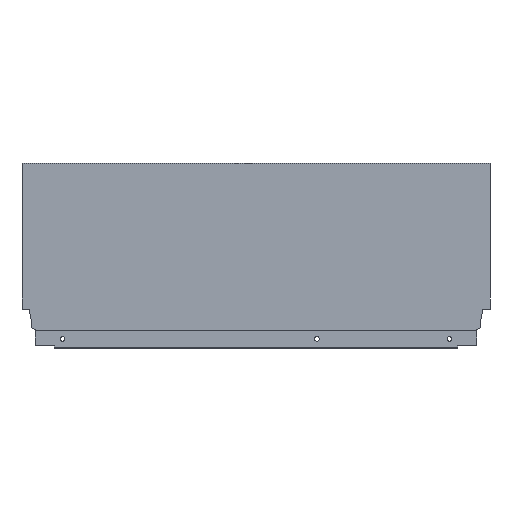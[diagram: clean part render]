
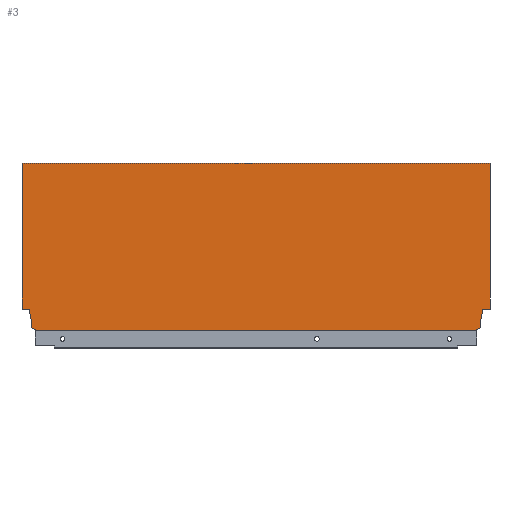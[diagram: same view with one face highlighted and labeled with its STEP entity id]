
A CAD part, top view. The second image highlights one B-rep face of the part: STEP entity #3.
In plain terms, the highlighted planar face has unit normal (0, 0, 1).
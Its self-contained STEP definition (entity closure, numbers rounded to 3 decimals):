
#3 = ADVANCED_FACE ( 'NONE', ( #1313 ), #536, .T. ) ;
#101 = EDGE_CURVE ( 'NONE', #459, #487, #1492, .T. ) ;
#128 = EDGE_CURVE ( 'NONE', #471, #482, #1511, .T. ) ;
#129 = EDGE_CURVE ( 'NONE', #482, #448, #1427, .T. ) ;
#130 = EDGE_CURVE ( 'NONE', #448, #513, #1423, .T. ) ;
#131 = EDGE_CURVE ( 'NONE', #447, #515, #1419, .T. ) ;
#132 = EDGE_CURVE ( 'NONE', #513, #514, #1421, .T. ) ;
#134 = EDGE_CURVE ( 'NONE', #514, #447, #1413, .T. ) ;
#135 = EDGE_CURVE ( 'NONE', #487, #476, #1415, .T. ) ;
#136 = EDGE_CURVE ( 'NONE', #471, #520, #1076, .T. ) ;
#138 = EDGE_CURVE ( 'NONE', #515, #505, #1426, .T. ) ;
#139 = EDGE_CURVE ( 'NONE', #502, #456, #1291, .T. ) ;
#140 = EDGE_CURVE ( 'NONE', #476, #502, #675, .T. ) ;
#141 = EDGE_CURVE ( 'NONE', #459, #505, #672, .T. ) ;
#144 = EDGE_CURVE ( 'NONE', #456, #520, #1079, .T. ) ;
#147 = AXIS2_PLACEMENT_3D ( 'NONE', #537, #441, #440 ) ;
#284 = CARTESIAN_POINT ( 'NONE',  ( -447.996, 1.146, 7.5 ) ) ;
#285 = DIRECTION ( 'NONE',  ( 0., 1., 0. ) ) ;
#306 = CARTESIAN_POINT ( 'NONE',  ( -461., 164.7, 7.5 ) ) ;
#440 = DIRECTION ( 'NONE',  ( 1., 0., 0. ) ) ;
#441 = DIRECTION ( 'NONE',  ( 0., 0., 1. ) ) ;
#447 = VERTEX_POINT ( 'NONE', #879 ) ;
#448 = VERTEX_POINT ( 'NONE', #895 ) ;
#456 = VERTEX_POINT ( 'NONE', #864 ) ;
#459 = VERTEX_POINT ( 'NONE', #690 ) ;
#471 = VERTEX_POINT ( 'NONE', #870 ) ;
#476 = VERTEX_POINT ( 'NONE', #865 ) ;
#482 = VERTEX_POINT ( 'NONE', #783 ) ;
#487 = VERTEX_POINT ( 'NONE', #756 ) ;
#502 = VERTEX_POINT ( 'NONE', #854 ) ;
#505 = VERTEX_POINT ( 'NONE', #855 ) ;
#513 = VERTEX_POINT ( 'NONE', #814 ) ;
#514 = VERTEX_POINT ( 'NONE', #815 ) ;
#515 = VERTEX_POINT ( 'NONE', #816 ) ;
#520 = VERTEX_POINT ( 'NONE', #821 ) ;
#536 = PLANE ( 'NONE',  #147 ) ;
#537 = CARTESIAN_POINT ( 'NONE',  ( -461., 0., 7.5 ) ) ;
#671 = VECTOR ( 'NONE', #971, 1000. ) ;
#672 = LINE ( 'NONE', #972, #671 ) ;
#673 = VECTOR ( 'NONE', #961, 1000. ) ;
#674 = VECTOR ( 'NONE', #908, 1000. ) ;
#675 = LINE ( 'NONE', #907, #674 ) ;
#678 = DIRECTION ( 'NONE',  ( 1., 0., 0. ) ) ;
#679 = CARTESIAN_POINT ( 'NONE',  ( -461., 0., 7.5 ) ) ;
#681 = DIRECTION ( 'NONE',  ( 0., -1., 0. ) ) ;
#683 = CARTESIAN_POINT ( 'NONE',  ( -7.06, 21.2, 7.5 ) ) ;
#685 = DIRECTION ( 'NONE',  ( -0.94, 0.342, 0. ) ) ;
#686 = DIRECTION ( 'NONE',  ( 0., -1., 0. ) ) ;
#687 = DIRECTION ( 'NONE',  ( 0., -1., 0. ) ) ;
#688 = CARTESIAN_POINT ( 'NONE',  ( -452.1, 2.64, 7.5 ) ) ;
#690 = CARTESIAN_POINT ( 'NONE',  ( -447.996, 0., 7.5 ) ) ;
#692 = CARTESIAN_POINT ( 'NONE',  ( 0., 0., 7.5 ) ) ;
#756 = CARTESIAN_POINT ( 'NONE',  ( -447.996, 1.146, 7.5 ) ) ;
#783 = CARTESIAN_POINT ( 'NONE',  ( 0., 164.7, 7.5 ) ) ;
#814 = CARTESIAN_POINT ( 'NONE',  ( -7.06, 21.2, 7.5 ) ) ;
#815 = CARTESIAN_POINT ( 'NONE',  ( -8.9, 10.765, 7.5 ) ) ;
#816 = CARTESIAN_POINT ( 'NONE',  ( -13.004, 1.146, 7.5 ) ) ;
#821 = CARTESIAN_POINT ( 'NONE',  ( -461., 21.2, 7.5 ) ) ;
#854 = CARTESIAN_POINT ( 'NONE',  ( -452.1, 10.765, 7.5 ) ) ;
#855 = CARTESIAN_POINT ( 'NONE',  ( -13.004, 0., 7.5 ) ) ;
#864 = CARTESIAN_POINT ( 'NONE',  ( -453.94, 21.2, 7.5 ) ) ;
#865 = CARTESIAN_POINT ( 'NONE',  ( -452.1, 2.64, 7.5 ) ) ;
#870 = CARTESIAN_POINT ( 'NONE',  ( -461., 164.7, 7.5 ) ) ;
#879 = CARTESIAN_POINT ( 'NONE',  ( -8.9, 2.64, 7.5 ) ) ;
#891 = DIRECTION ( 'NONE',  ( -0.94, -0.342, 0. ) ) ;
#892 = CARTESIAN_POINT ( 'NONE',  ( -8.9, 2.64, 7.5 ) ) ;
#895 = CARTESIAN_POINT ( 'NONE',  ( 0., 21.2, 7.5 ) ) ;
#902 = DIRECTION ( 'NONE',  ( -1., 0., 0. ) ) ;
#903 = CARTESIAN_POINT ( 'NONE',  ( -466., 21.2, 7.5 ) ) ;
#904 = DIRECTION ( 'NONE',  ( -0.174, -0.985, 0. ) ) ;
#907 = CARTESIAN_POINT ( 'NONE',  ( -452.1, 10.765, 7.5 ) ) ;
#908 = DIRECTION ( 'NONE',  ( 0., 1., 0. ) ) ;
#914 = DIRECTION ( 'NONE',  ( 0., -1., 0. ) ) ;
#917 = CARTESIAN_POINT ( 'NONE',  ( -13.004, 1.146, 7.5 ) ) ;
#955 = CARTESIAN_POINT ( 'NONE',  ( 0., 21.2, 7.5 ) ) ;
#956 = DIRECTION ( 'NONE',  ( -1., 0., 0. ) ) ;
#961 = DIRECTION ( 'NONE',  ( -0.174, 0.985, 0. ) ) ;
#969 = CARTESIAN_POINT ( 'NONE',  ( -453.94, 21.2, 7.5 ) ) ;
#971 = DIRECTION ( 'NONE',  ( 1., 0., 0. ) ) ;
#972 = CARTESIAN_POINT ( 'NONE',  ( -461., 0., 7.5 ) ) ;
#973 = CARTESIAN_POINT ( 'NONE',  ( -8.9, 10.765, 7.5 ) ) ;
#1075 = VECTOR ( 'NONE', #685, 1000. ) ;
#1076 = LINE ( 'NONE', #679, #1077 ) ;
#1077 = VECTOR ( 'NONE', #686, 1000. ) ;
#1079 = LINE ( 'NONE', #903, #1080 ) ;
#1080 = VECTOR ( 'NONE', #902, 1000. ) ;
#1222 = ORIENTED_EDGE ( 'NONE', *, *, #128, .F. ) ;
#1223 = ORIENTED_EDGE ( 'NONE', *, *, #129, .F. ) ;
#1224 = ORIENTED_EDGE ( 'NONE', *, *, #130, .F. ) ;
#1225 = ORIENTED_EDGE ( 'NONE', *, *, #132, .F. ) ;
#1226 = ORIENTED_EDGE ( 'NONE', *, *, #134, .F. ) ;
#1227 = ORIENTED_EDGE ( 'NONE', *, *, #131, .F. ) ;
#1228 = ORIENTED_EDGE ( 'NONE', *, *, #138, .F. ) ;
#1229 = ORIENTED_EDGE ( 'NONE', *, *, #141, .T. ) ;
#1230 = ORIENTED_EDGE ( 'NONE', *, *, #101, .F. ) ;
#1232 = ORIENTED_EDGE ( 'NONE', *, *, #135, .F. ) ;
#1246 = ORIENTED_EDGE ( 'NONE', *, *, #136, .T. ) ;
#1247 = ORIENTED_EDGE ( 'NONE', *, *, #144, .F. ) ;
#1248 = ORIENTED_EDGE ( 'NONE', *, *, #139, .F. ) ;
#1250 = ORIENTED_EDGE ( 'NONE', *, *, #140, .F. ) ;
#1283 = EDGE_LOOP ( 'NONE', ( #1246, #1247, #1248, #1250, #1232, #1230, #1229, #1228, #1227, #1226, #1225, #1224, #1223, #1222 ) ) ;
#1291 = LINE ( 'NONE', #969, #673 ) ;
#1313 = FACE_OUTER_BOUND ( 'NONE', #1283, .T. ) ;
#1413 = LINE ( 'NONE', #973, #1414 ) ;
#1414 = VECTOR ( 'NONE', #687, 1000. ) ;
#1415 = LINE ( 'NONE', #688, #1075 ) ;
#1416 = VECTOR ( 'NONE', #904, 1000. ) ;
#1419 = LINE ( 'NONE', #892, #1420 ) ;
#1420 = VECTOR ( 'NONE', #891, 1000. ) ;
#1421 = LINE ( 'NONE', #683, #1416 ) ;
#1422 = VECTOR ( 'NONE', #681, 1000. ) ;
#1423 = LINE ( 'NONE', #955, #1424 ) ;
#1424 = VECTOR ( 'NONE', #956, 1000. ) ;
#1425 = VECTOR ( 'NONE', #678, 1000. ) ;
#1426 = LINE ( 'NONE', #917, #1542 ) ;
#1427 = LINE ( 'NONE', #692, #1422 ) ;
#1492 = LINE ( 'NONE', #284, #1494 ) ;
#1494 = VECTOR ( 'NONE', #285, 1000. ) ;
#1511 = LINE ( 'NONE', #306, #1425 ) ;
#1542 = VECTOR ( 'NONE', #914, 1000. ) ;
